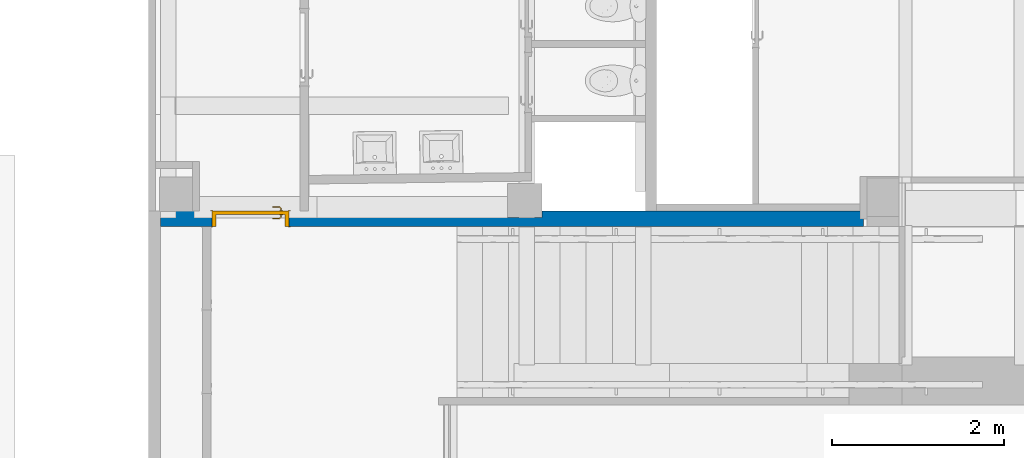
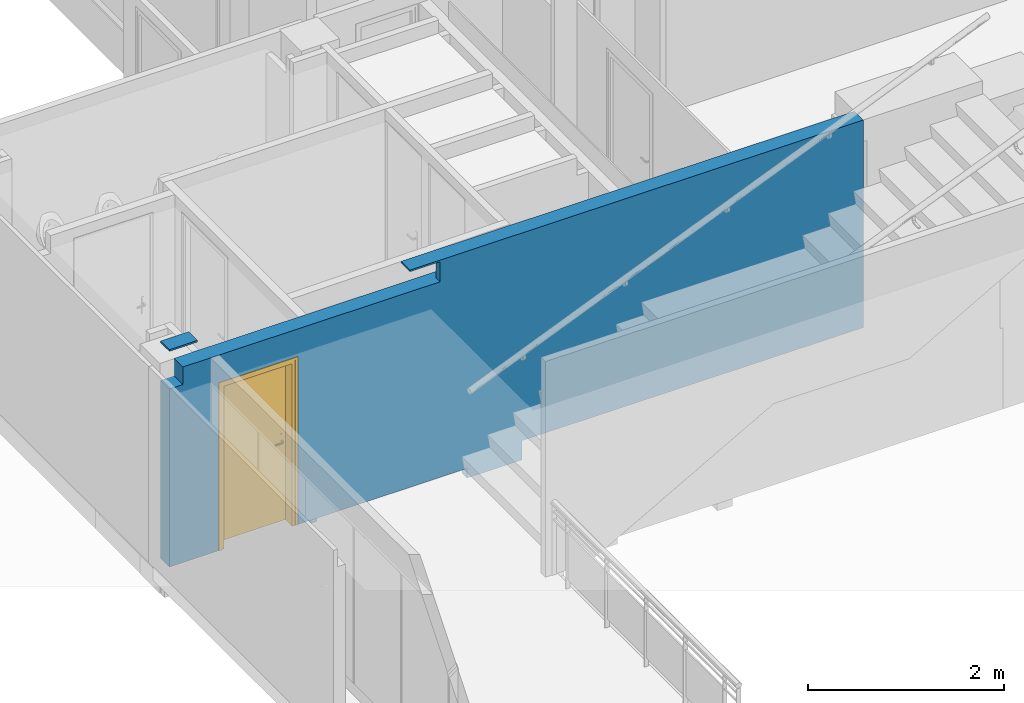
# One storey, part 12 of 32: 1 door, 1 wall, 1 opening.
"""IFC4 building model written with IfcOpenShell, lengths in metres."""

from ifc_helpers import new_model, entity, si_unit, converted_unit, derived_unit, direction, frame, origin, place, context, subcontext, project, spatial, indexed_curve, outline, extrude, polygons, source, transform, mapped, material, material_list, layer, layer_set, constituent, constituent_set, type_object, type_shapes, element, fill, save


model = new_model("IFC4")

# Units and contexts
model_context = context("Model", 3, precision=1e-05, world=origin(), true_north=direction((6.12303176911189e-17, 1.0)))
body_context = subcontext(model_context, "Body", "Model", "MODEL_VIEW")
ifc_project = project(units=[si_unit("LENGTHUNIT", "METRE"), si_unit("AREAUNIT", "SQUARE_METRE"), si_unit("VOLUMEUNIT", "CUBIC_METRE"), converted_unit("PLANEANGLEUNIT", "DEGREE", entity("IfcRatioMeasure", 0.0174532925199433), si_unit("PLANEANGLEUNIT", "RADIAN"), dimensions=[0, 0, 0, 0, 0, 0, 0]), si_unit("MASSUNIT", "GRAM", prefix="KILO"), derived_unit("MASSDENSITYUNIT", [(si_unit("MASSUNIT", "GRAM", prefix="KILO"), 1), (si_unit("LENGTHUNIT", "METRE"), -3)]), derived_unit("MOMENTOFINERTIAUNIT", [(si_unit("LENGTHUNIT", "METRE"), 4)]), si_unit("TIMEUNIT", "SECOND"), si_unit("FREQUENCYUNIT", "HERTZ"), si_unit("THERMODYNAMICTEMPERATUREUNIT", "DEGREE_CELSIUS"), derived_unit("THERMALTRANSMITTANCEUNIT", [(si_unit("MASSUNIT", "GRAM", prefix="KILO"), 1), (si_unit("THERMODYNAMICTEMPERATUREUNIT", "KELVIN"), -1), (si_unit("TIMEUNIT", "SECOND"), -3)]), derived_unit("VOLUMETRICFLOWRATEUNIT", [(si_unit("LENGTHUNIT", "METRE"), 3), (si_unit("TIMEUNIT", "SECOND"), -1)]), si_unit("ELECTRICCURRENTUNIT", "AMPERE"), si_unit("ELECTRICVOLTAGEUNIT", "VOLT"), si_unit("POWERUNIT", "WATT"), si_unit("FORCEUNIT", "NEWTON", prefix="KILO"), si_unit("ILLUMINANCEUNIT", "LUX"), si_unit("LUMINOUSFLUXUNIT", "LUMEN"), si_unit("LUMINOUSINTENSITYUNIT", "CANDELA"), derived_unit("USERDEFINED", [(si_unit("MASSUNIT", "GRAM", prefix="KILO"), -1), (si_unit("LENGTHUNIT", "METRE"), -2), (si_unit("TIMEUNIT", "SECOND"), 3), (si_unit("LUMINOUSFLUXUNIT", "LUMEN"), 1)]), derived_unit("LINEARVELOCITYUNIT", [(si_unit("LENGTHUNIT", "METRE"), 1), (si_unit("TIMEUNIT", "SECOND"), -1)]), si_unit("PRESSUREUNIT", "PASCAL"), derived_unit("USERDEFINED", [(si_unit("LENGTHUNIT", "METRE"), -2), (si_unit("MASSUNIT", "GRAM", prefix="KILO"), 1), (si_unit("TIMEUNIT", "SECOND"), -2)]), derived_unit("LINEARFORCEUNIT", [(si_unit("MASSUNIT", "GRAM", prefix="KILO"), 1), (si_unit("LENGTHUNIT", "METRE"), 1), (si_unit("TIMEUNIT", "SECOND"), -2), (si_unit("LENGTHUNIT", "METRE"), -1)]), derived_unit("PLANARFORCEUNIT", [(si_unit("MASSUNIT", "GRAM", prefix="KILO"), 1), (si_unit("LENGTHUNIT", "METRE"), 1), (si_unit("TIMEUNIT", "SECOND"), -2), (si_unit("LENGTHUNIT", "METRE"), -2)])], contexts=[model_context])

# Site, building, storey
site_placement = place(None, origin())
site = spatial("IfcSite", under=ifc_project, at=site_placement, Name="Default", CompositionType="ELEMENT")
building_placement = place(site_placement, origin())
building = spatial("IfcBuilding", under=site, at=building_placement, Name="HOTEL CONSULAIRE BOULOGNE SUR MER", CompositionType="ELEMENT")
storey_placement = place(building_placement, frame((0.0, 0.0, -2.70343668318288)))
storey = spatial("IfcBuildingStorey", under=building, at=storey_placement, Name="SS1", CompositionType="ELEMENT", Elevation=-2.70343668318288)

# Wall, opening, door
ifc_material_1 = material(Name="Mur par défaut", Category="Divers")
ifc_layer = layer(ifc_material_1, 0.18, Name="Mur par défaut", Category="Divers")
ifc_layer_set = layer_set([ifc_layer], Name="Mur de base:Générique - Int.180")
wall_type = type_object("IfcWallType", Name="Mur de base:Générique - Int.180", PredefinedType="NOTDEFINED", material=ifc_layer_set)
wall_placement = place(storey_placement, frame((-5.46198856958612, -20.0049143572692, -0.120000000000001)))
wall = element("IfcWall", 1, at=wall_placement, inside=storey, type_object=wall_type, material=ifc_layer_set, Name="Mur de base:Générique - Int.180", ObjectType="Mur de base:Générique - Int.180", PredefinedType="NOTDEFINED", context=body_context, shape_type="Tessellation", body=[
    polygons([(-9.77858066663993e-16, 0.0900000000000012, 2.80343668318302), (-9.77858066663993e-16, 0.0900000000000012, 2.82343668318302), (0.332215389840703, 0.0900000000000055, 2.82343668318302), (0.332215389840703, 0.0900000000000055, 2.80343668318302), (1.38859521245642e-16, -0.0899999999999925, 2.80343668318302), (0.332215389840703, -0.0899999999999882, 2.80343668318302), (1.38859521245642e-16, -0.0899999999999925, 2.82343668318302), (0.332215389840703, -0.0899999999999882, 2.82343668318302)], [[[3, 4, 1, 2]], [[5, 1, 4, 6]], [[7, 8, 3, 2]], [[7, 5, 6, 8]], [[1, 5, 7, 2]], [[3, 8, 6, 4]]], closed=True),
    polygons([(3.18763698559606, -0.0899999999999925, 2.80343668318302), (3.18763698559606, -0.0899999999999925, 2.55343668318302), (3.07849177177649, -0.0899999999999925, 2.55343668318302), (0.585070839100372, -0.0899999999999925, 2.55343668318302), (0.485070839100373, -0.0899999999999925, 2.55343668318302), (0.157480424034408, -0.0899999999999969, 2.55343668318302), (0.157480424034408, -0.0899999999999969, 2.33343668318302), (1.38859521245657e-16, -0.0899999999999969, 2.33343668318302), (1.38859521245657e-16, -0.0899999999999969, 0.120000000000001), (0.485070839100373, -0.0899999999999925, 0.120000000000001), (0.585070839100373, -0.0899999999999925, 0.120000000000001), (0.595070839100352, -0.0899999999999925, 0.120000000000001), (0.595070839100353, -0.0899999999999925, 2.195), (1.49507083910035, -0.0899999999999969, 2.195), (1.49507083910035, -0.0899999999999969, 0.120000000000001), (3.50106145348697, -0.0899999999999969, 0.120000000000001), (3.50106145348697, -0.0899999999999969, 0.0), (4.01482963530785, -0.0899999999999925, 0.0), (4.15229748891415, -0.0899999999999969, 0.0), (4.15229748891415, -0.0899999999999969, 0.238999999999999), (8.16816534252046, -0.0899999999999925, 0.238999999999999), (8.16816534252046, -0.0899999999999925, 2.55343668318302), (8.16816534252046, -0.0899999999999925, 2.82343668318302), (3.22849177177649, -0.0899999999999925, 2.82343668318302), (2.8325319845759, -0.0899999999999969, 2.82343668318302), (2.8325319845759, -0.0899999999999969, 2.80343668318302), (0.595070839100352, 0.0900000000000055, 2.195), (0.595070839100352, 0.0900000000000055, 0.120000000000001), (0.453763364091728, 0.0900000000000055, 0.120000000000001), (0.373763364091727, 0.0900000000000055, 0.120000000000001), (-9.77858066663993e-16, 0.0900000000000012, 0.120000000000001), (-9.77858066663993e-16, 0.0900000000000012, 2.33343668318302), (0.157480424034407, 0.0900000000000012, 2.33343668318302), (0.157480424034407, 0.0900000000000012, 2.55343668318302), (0.373763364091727, 0.0900000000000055, 2.55343668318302), (0.453763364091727, 0.0900000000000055, 2.55343668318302), (1.62028922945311, 0.0900000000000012, 2.55343668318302), (1.72028922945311, 0.0900000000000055, 2.55343668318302), (4.03316534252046, 0.0900000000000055, 2.55343668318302), (4.03316534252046, 0.0900000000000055, 0.335000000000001), (4.03316534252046, 0.0900000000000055, 0.315000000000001), (4.03316534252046, 0.0900000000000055, 0.18), (1.79232700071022, 0.0900000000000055, 0.18), (1.79232700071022, 0.0900000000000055, 0.165000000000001), (1.79232700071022, 0.0900000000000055, 0.0), (1.725, 0.0900000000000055, 0.0), (1.725, 0.0900000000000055, 0.120000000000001), (1.49507083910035, 0.0900000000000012, 0.120000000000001), (1.49507083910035, 0.0900000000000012, 2.195), (6.87976137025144, 0.0900000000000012, 2.55343668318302), (6.87976137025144, 0.0, 2.55343668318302), (8.16816534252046, 0.0, 2.55343668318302), (8.16816534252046, 0.0900000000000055, 2.55343668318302), (4.30964408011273, 0.0, 2.80343668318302), (3.18763698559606, 4.33146851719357e-15, 2.80343668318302), (2.8325319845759, 0.0900000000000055, 2.80343668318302), (4.30964408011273, 0.0900000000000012, 2.80343668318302), (4.15229748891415, 0.0120045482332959, 0.0), (3.50106145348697, 0.00668303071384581, 0.0), (4.01482963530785, 0.00668303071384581, 0.0), (4.03302700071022, 0.00668303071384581, 0.0), (4.03316534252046, 0.0120045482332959, 0.0), (1.725, 0.00668303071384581, 0.120000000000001), (1.79232700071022, 0.00668303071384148, 0.120000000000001), (3.50106145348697, 0.00668303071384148, 0.120000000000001), (8.16816534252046, 0.0900000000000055, 0.238999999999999), (4.43316534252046, 0.0900000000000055, 0.238999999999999), (4.43316534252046, 0.0900000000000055, 2.55343668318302), (4.30964408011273, 0.0900000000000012, 2.55343668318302), (2.8325319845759, 0.0900000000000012, 2.82343668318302), (8.16816534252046, 0.0900000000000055, 2.82343668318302), (8.16816534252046, 0.0900000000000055, 2.80343668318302), (6.87976137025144, 0.0900000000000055, 2.80343668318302), (8.16816534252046, 0.0900000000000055, 0.414000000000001), (3.18763698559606, 4.33146851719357e-15, 2.55343668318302), (4.30964408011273, 0.0, 2.55343668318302), (4.30964408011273, 0.0120045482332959, 2.55343668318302), (4.03316534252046, 0.0120045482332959, 2.55343668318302), (0.157480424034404, 0.0826830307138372, 2.55343668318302), (8.16816534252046, -4.33146851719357e-15, 2.80343668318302), (6.87976137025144, 0.0, 2.80343668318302), (4.43316534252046, 0.0120045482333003, 2.55343668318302), (4.43316534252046, 0.0120045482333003, 0.238999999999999), (4.43316534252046, 0.0120045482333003, 0.315000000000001), (4.03316534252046, 0.0120045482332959, 0.18), (4.03316534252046, 0.0120045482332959, 0.315000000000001), (4.15229748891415, 0.0120045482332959, 0.238999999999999), (1.725, 0.00668303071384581, 0.0), (1.79232700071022, 0.00668303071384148, 0.0), (1.79232700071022, 0.00668303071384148, 0.18), (4.03302700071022, 0.00668303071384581, 0.18), (0.157480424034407, 0.0826830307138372, 2.33343668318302)], [[[10, 11, 12, 13, 14, 15, 16, 17, 18, 19, 20, 21, 22, 23, 24, 25, 26, 1, 2, 3, 4, 5, 6, 7, 8, 9]], [[63, 88, 89, 64]], [[45, 46, 47, 48, 49, 27, 28, 29, 30, 31, 32, 33, 34, 35, 36, 37, 38, 39, 40, 41, 42, 43, 44]], [[50, 53, 74, 66, 67, 68, 69, 57, 56, 70, 71, 72, 73]], [[54, 76, 75, 55]], [[77, 82, 84, 83, 87, 58, 62, 85, 86, 78]], [[60, 59, 65, 64, 90, 91, 61]], [[80, 52, 51, 81]], [[53, 50, 51, 52]], [[35, 34, 79, 6, 5, 4, 3, 2, 75, 76, 77, 78, 39, 38, 37, 36]], [[24, 23, 71, 70, 25]], [[92, 33, 32, 8, 7]], [[54, 55, 1, 26, 56, 57]], [[17, 59, 60, 61, 62, 58, 19, 18]], [[63, 64, 65, 16, 15, 48, 47]], [[81, 73, 72, 80]], [[14, 13, 27, 49]], [[89, 88, 46, 45]], [[83, 67, 66, 21, 20, 87]], [[31, 30, 29, 28, 12, 11, 10, 9]], [[43, 42, 85, 91, 90]], [[77, 69, 68, 82]], [[31, 9, 8, 32]], [[55, 75, 2, 1]], [[15, 14, 49, 48]], [[84, 82, 68, 67, 83]], [[63, 47, 46, 88]], [[16, 65, 59, 17]], [[92, 7, 6, 79, 34, 33]], [[54, 57, 69, 77, 76]], [[25, 70, 56, 26]], [[12, 28, 27, 13]], [[40, 39, 78, 86, 85, 42, 41]], [[20, 19, 58, 87]], [[64, 89, 45, 44, 43, 90]], [[22, 21, 66, 74, 53, 52, 80, 72, 71, 23]], [[73, 81, 51, 50]], [[61, 91, 85, 62]]], closed=True),
])
opening_placement = place(wall_placement, frame((0.595070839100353, -0.089999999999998, 0.120000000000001)))
opening = element("IfcOpeningElement", 2, at=opening_placement, cuts=wall, Name="Int. Simple:PP (0.83m x 2.04m):1", ObjectType="Opening", PredefinedType="OPENING", context=body_context, shape_type="SweptSolid", body=[
    extrude(outline(indexed_curve([(0.0, -1.9104577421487e-29), (2.075, -1.9104577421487e-29), (2.075, 0.9), (0.0, 0.9), (0.0, -1.9104577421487e-29)], self_intersect=False)), frame((0.0, 0.0, 0.0), z_axis=(0.0, 1.0, 0.0), x_axis=(0.0, 0.0, 1.0)), (0.0, 0.0, 1.0), 0.18),
])
ifc_material_2 = material(Name="Finition Peinture - Blanc satiné", Category="Peinture")
ifc_constituent_1 = constituent(ifc_material_2, Name="Finition Peinture - Blanc satiné", Category="Matériaux")
ifc_material_3 = material(Name="Bois - Panneau de porte", Category="Bois")
ifc_constituent_2 = constituent(ifc_material_3, Name="Bois - Panneau de porte", Category="Matériaux")
ifc_material_4 = material(Name="Bois - Cadre de porte", Category="Bois")
ifc_constituent_3 = constituent(ifc_material_4, Name="Bois - Cadre de porte", Category="Matériaux")
ifc_constituent_set = constituent_set(constituents=[ifc_constituent_1, ifc_constituent_2, ifc_constituent_3], Name="MaterialConstituentSet")
ifc_material_list = material_list([ifc_material_3, ifc_material_4, ifc_material_4, ifc_material_2])
door_type = type_object("IfcDoorType", Name="Int. Simple:PP (0.83m x 2.04m)", OperationType="NOTDEFINED", PredefinedType="DOOR", material=ifc_material_list)
shared_shape = source(origin(), body_context, "Body", "Tessellation", [
    polygons([(0.0750000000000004, -0.00500000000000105, 0.870000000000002), (0.0846472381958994, -0.00500000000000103, 0.866003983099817), (0.0950000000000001, -0.00500000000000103, 0.86464101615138), (0.105352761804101, -0.00500000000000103, 0.866003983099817), (0.115, -0.00500000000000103, 0.870000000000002), (0.114999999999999, -0.00500000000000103, 1.08), (0.1053527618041, -0.00500000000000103, 1.08399601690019), (0.094999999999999, -0.00500000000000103, 1.08535898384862), (0.0846472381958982, -0.00500000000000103, 1.08399601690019), (0.0749999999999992, -0.00500000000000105, 1.08), (0.0749999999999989, -1.06594733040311e-15, 0.870000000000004), (0.0749999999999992, -1.06594733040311e-15, 1.08), (0.0846472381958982, -1.04902753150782e-15, 1.08399601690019), (0.094999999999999, -1.04902753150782e-15, 1.08535898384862), (0.1053527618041, -1.04902753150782e-15, 1.08399601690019), (0.114999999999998, -1.04902753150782e-15, 1.08), (0.115, -1.04902753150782e-15, 0.870000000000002), (0.105352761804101, -1.04902753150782e-15, 0.866003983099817), (0.0950000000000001, -1.04902753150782e-15, 0.86464101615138), (0.0846472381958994, -1.04902753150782e-15, 0.866003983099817)], [[[4, 5, 6, 7, 8, 9, 10, 1, 2, 3]], [[15, 16, 17, 18, 19, 20, 11, 12, 13, 14]], [[11, 20, 2, 1]], [[2, 20, 19, 3]], [[19, 18, 4, 3]], [[18, 17, 5, 4]], [[6, 5, 17, 16]], [[16, 15, 7, 6]], [[7, 15, 14, 8]], [[14, 13, 9, 8]], [[13, 12, 10, 9]], [[1, 10, 12, 11]]], closed=True),
    polygons([(0.114999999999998, 0.0399999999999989, 1.08), (0.105352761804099, 0.0399999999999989, 1.08399601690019), (0.0949999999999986, 0.0399999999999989, 1.08535898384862), (0.084647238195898, 0.0399999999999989, 1.08399601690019), (0.0749999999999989, 0.0399999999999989, 1.08), (0.0750000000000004, 0.0399999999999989, 0.870000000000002), (0.0846472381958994, 0.0399999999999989, 0.866003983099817), (0.0950000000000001, 0.0399999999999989, 0.86464101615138), (0.105352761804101, 0.0399999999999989, 0.866003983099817), (0.115, 0.0399999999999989, 0.870000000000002), (0.114999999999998, 0.044999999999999, 1.08), (0.115, 0.044999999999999, 0.870000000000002), (0.105352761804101, 0.0449999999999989, 0.866003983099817), (0.0950000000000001, 0.0449999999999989, 0.86464101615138), (0.0846472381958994, 0.0449999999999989, 0.866003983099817), (0.0749999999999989, 0.0449999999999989, 0.870000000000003), (0.0749999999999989, 0.0449999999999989, 1.08), (0.084647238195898, 0.0449999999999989, 1.08399601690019), (0.0949999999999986, 0.0449999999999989, 1.08535898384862), (0.105352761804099, 0.0449999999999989, 1.08399601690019)], [[[9, 10, 1, 2, 3, 4, 5, 6, 7, 8]], [[20, 11, 12, 13, 14, 15, 16, 17, 18, 19]], [[11, 20, 2, 1]], [[2, 20, 19, 3]], [[19, 18, 4, 3]], [[18, 17, 5, 4]], [[6, 5, 17, 16]], [[16, 15, 7, 6]], [[7, 15, 14, 8]], [[14, 13, 9, 8]], [[13, 12, 10, 9]], [[1, 10, 12, 11]]], closed=True),
    polygons([(0.0889999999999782, -0.00500000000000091, 1.007), (0.0929747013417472, -0.00500000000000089, 1.00778044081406), (0.0970252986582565, -0.00500000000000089, 1.00778044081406), (0.101000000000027, -0.00500000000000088, 1.00699999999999), (0.101000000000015, -0.00500000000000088, 0.993000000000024), (0.0970252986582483, -0.00500000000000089, 0.992219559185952), (0.0929747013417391, -0.00500000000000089, 0.99221955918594), (0.0889999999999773, -0.00500000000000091, 0.992999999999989), (0.0889999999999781, -0.0326509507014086, 1.007), (0.092974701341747, -0.0310045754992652, 1.00778044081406), (0.0970252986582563, -0.0293267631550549, 1.00778044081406), (0.101000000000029, -0.0276803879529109, 1.007), (0.101000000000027, -0.0276803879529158, 0.993000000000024), (0.0970252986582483, -0.0293267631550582, 0.992219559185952), (0.0929747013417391, -0.0310045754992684, 0.99221955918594), (0.0889999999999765, -0.0326509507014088, 0.992999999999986), (0.107377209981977, -0.051028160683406, 1.007), (0.10902358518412, -0.0470534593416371, 1.00778044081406), (0.110701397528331, -0.0430028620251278, 1.00778044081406), (0.112347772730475, -0.0390281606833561, 1.007), (0.112347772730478, -0.0390281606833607, 0.993000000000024), (0.110701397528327, -0.0430028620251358, 0.992219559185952), (0.109023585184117, -0.0470534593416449, 0.99221955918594), (0.107377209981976, -0.0510281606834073, 0.992999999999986), (0.195018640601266, -0.0510281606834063, 1.00699999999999), (0.195018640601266, -0.051028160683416, 0.992999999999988), (0.195018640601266, -0.0470534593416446, 0.99221955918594), (0.195018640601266, -0.0430028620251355, 0.992219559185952), (0.195018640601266, -0.0390281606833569, 0.993000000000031), (0.195018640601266, -0.0390281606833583, 1.007), (0.195018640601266, -0.0430028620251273, 1.00778044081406), (0.195018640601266, -0.0470534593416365, 1.00778044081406), (0.147307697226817, -0.0510281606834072, 1.007), (0.152860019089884, -0.045028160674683, 1.0078786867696), (0.15368320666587, -0.039028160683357, 1.007), (0.147307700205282, -0.0510281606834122, 0.992999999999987), (0.152860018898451, -0.0450281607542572, 0.992121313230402), (0.153683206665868, -0.0390281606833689, 0.993000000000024)], [[[2, 3, 4, 5, 6, 7, 8, 1]], [[21, 20, 35, 30, 29, 38]], [[9, 10, 2, 1]], [[10, 18, 19, 11, 3, 2]], [[11, 12, 4, 3]], [[5, 4, 12, 13]], [[26, 27, 28, 29, 30, 31, 32, 25]], [[13, 14, 6, 5]], [[14, 22, 23, 15, 7, 6]], [[15, 16, 8, 7]], [[1, 8, 16, 9]], [[17, 18, 10, 9]], [[19, 20, 12, 11]], [[13, 12, 20, 21]], [[21, 22, 14, 13]], [[23, 24, 16, 15]], [[9, 16, 24, 17]], [[33, 32, 34]], [[25, 32, 33]], [[18, 17, 33]], [[34, 35, 19]], [[20, 19, 35]], [[35, 31, 30]], [[32, 31, 34]], [[31, 35, 34]], [[18, 33, 34]], [[18, 34, 19]], [[38, 28, 37]], [[36, 37, 27]], [[21, 38, 22]], [[38, 29, 28]], [[26, 36, 27]], [[24, 23, 36]], [[36, 23, 37]], [[23, 22, 37]], [[22, 38, 37]], [[27, 37, 28]], [[17, 24, 36, 26, 25, 33]]], closed=True),
    polygons([(0.10100000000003, 0.0449999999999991, 0.993000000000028), (0.101000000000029, 0.0449999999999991, 1.007), (0.0970252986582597, 0.0449999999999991, 1.00778044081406), (0.0929747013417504, 0.0449999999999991, 1.00778044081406), (0.0889999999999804, 0.0449999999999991, 1.007), (0.0889999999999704, 0.0449999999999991, 0.992999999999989), (0.0929747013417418, 0.0449999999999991, 0.99221955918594), (0.0970252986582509, 0.0449999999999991, 0.992219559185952), (0.10100000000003, 0.067485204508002, 0.993000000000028), (0.10100000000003, 0.0674852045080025, 1.007), (0.0970252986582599, 0.0691315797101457, 1.00778044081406), (0.0929747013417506, 0.070809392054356, 1.00778044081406), (0.0889999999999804, 0.0724557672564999, 1.007), (0.0889999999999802, 0.0724557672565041, 0.992999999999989), (0.0929747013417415, 0.0708093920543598, 0.99221955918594), (0.0970252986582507, 0.0691315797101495, 0.992219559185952), (0.112485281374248, 0.0789704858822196, 0.993000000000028), (0.112485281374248, 0.0789704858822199, 1.007), (0.110838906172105, 0.0829451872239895, 1.00778044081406), (0.109161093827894, 0.0869957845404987, 1.00778044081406), (0.107514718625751, 0.090970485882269, 1.007), (0.107514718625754, 0.090970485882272, 0.992999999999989), (0.109161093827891, 0.0869957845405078, 0.99221955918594), (0.110838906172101, 0.0829451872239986, 0.992219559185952), (0.195045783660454, 0.0789704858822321, 0.993000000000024), (0.195045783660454, 0.0829451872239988, 0.992219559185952), (0.195045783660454, 0.086995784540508, 0.99221955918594), (0.195045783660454, 0.0909704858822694, 0.992999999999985), (0.195045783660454, 0.0909704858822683, 1.007), (0.195045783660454, 0.0869957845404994, 1.00778044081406), (0.195045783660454, 0.0829451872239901, 1.00778044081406), (0.195045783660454, 0.0789704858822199, 1.007), (0.147445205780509, 0.0909704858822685, 1.007), (0.152942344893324, 0.0849704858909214, 1.0078786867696), (0.153765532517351, 0.0789704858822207, 1.007), (0.147445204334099, 0.0909704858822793, 0.992999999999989), (0.152942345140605, 0.0849704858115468, 0.992121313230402), (0.153765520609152, 0.0789704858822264, 0.993000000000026)], [[[4, 5, 6, 7, 8, 1, 2, 3]], [[18, 17, 38, 25, 32, 35]], [[2, 1, 9, 10]], [[25, 26, 27, 28, 29, 30, 31, 32]], [[10, 11, 3, 2]], [[11, 19, 20, 12, 4, 3]], [[12, 13, 5, 4]], [[6, 5, 13, 14]], [[14, 15, 7, 6]], [[15, 23, 24, 16, 8, 7]], [[16, 9, 1, 8]], [[10, 9, 17, 18]], [[18, 19, 11, 10]], [[20, 21, 13, 12]], [[14, 13, 21, 22]], [[22, 23, 15, 14]], [[24, 17, 9, 16]], [[35, 31, 34]], [[33, 34, 30]], [[18, 35, 19]], [[35, 32, 31]], [[29, 33, 30]], [[21, 20, 33]], [[33, 20, 34]], [[20, 19, 34]], [[19, 35, 34]], [[30, 34, 31]], [[21, 33, 29, 28, 36, 22]], [[36, 27, 37]], [[28, 27, 36]], [[23, 22, 36]], [[37, 38, 24]], [[17, 24, 38]], [[38, 26, 25]], [[27, 26, 37]], [[26, 38, 37]], [[23, 36, 37]], [[23, 37, 24]]], closed=True),
    polygons([(0.034999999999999, 0.04, 2.04), (0.865, 0.04, 2.04), (0.864999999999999, 0.04, 0.0), (0.034999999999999, 0.04, 0.0), (0.034999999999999, 5.07593966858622e-17, 2.04), (0.034999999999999, 5.07593966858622e-17, 0.0), (0.864999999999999, 5.07593966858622e-17, 0.0), (0.865, 5.07593966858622e-17, 2.04)], [[[4, 1, 2, 3]], [[7, 8, 5, 6]], [[2, 1, 5, 8]], [[3, 2, 8, 7]], [[4, 3, 7, 6]], [[1, 4, 6, 5]]], closed=True),
    polygons([(-1.54308565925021e-14, 1.69197988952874e-17, 0.0), (-1.54308565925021e-14, 0.180000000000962, 0.0), (0.0499999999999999, 0.180000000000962, 0.0), (0.0499999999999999, 0.0400000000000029, 0.0), (0.0349999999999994, 0.0400000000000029, 0.0), (0.0349999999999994, 1.69197988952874e-17, 0.0), (-1.53631773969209e-14, 1.69197988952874e-17, 2.07500000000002), (-1.53631773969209e-14, 0.180000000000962, 2.07500000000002), (0.900000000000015, 0.180000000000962, 2.07500000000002), (0.900000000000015, 0.180000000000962, 9.23443718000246e-25), (0.85, 0.180000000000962, 6.02669015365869e-24), (0.85, 0.180000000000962, 2.025), (0.05, 0.180000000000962, 2.025), (0.05, 0.0400000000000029, 2.025), (0.85, 0.0400000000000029, 2.025), (0.85, 0.0400000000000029, 1.99209609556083e-25), (0.865, 0.0400000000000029, 1.51399294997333e-24), (0.865000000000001, 0.0400000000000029, 2.04), (0.0349999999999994, 0.0400000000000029, 2.04), (0.0349999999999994, 1.69197988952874e-17, 2.04), (0.865, 1.69197988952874e-17, 2.04), (0.865, 1.69197988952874e-17, 3.40121094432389e-24), (0.900000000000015, 1.69197988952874e-17, 1.81925185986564e-24), (0.900000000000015, 1.69197988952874e-17, 2.07500000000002)], [[[5, 6, 1, 2, 3, 4]], [[11, 10, 23, 22, 17, 16]], [[14, 13, 12, 15]], [[20, 19, 18, 21]], [[2, 1, 7, 8]], [[15, 12, 11, 16]], [[21, 18, 17, 22]], [[3, 2, 8, 9, 10, 11, 12, 13]], [[4, 3, 13, 14]], [[6, 5, 19, 20]], [[9, 24, 23, 10]], [[16, 17, 18, 19, 5, 4, 14, 15]], [[22, 23, 24, 7, 1, 6, 20, 21]], [[8, 7, 24, 9]]], closed=True),
    polygons([(0.0149999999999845, 0.180000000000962, 1.35358391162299e-16), (-0.0150000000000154, 0.180000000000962, 1.35358391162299e-16), (-0.0150000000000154, 0.185000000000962, 1.35358391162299e-16), (0.0149999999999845, 0.185000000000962, 1.35358391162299e-16), (0.0149999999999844, 0.180000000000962, 2.06000000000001), (0.884999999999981, 0.180000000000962, 2.06000000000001), (0.88499999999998, 0.180000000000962, 5.09144897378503e-24), (0.91499999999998, 0.180000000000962, -5.44393448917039e-24), (0.91499999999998, 0.180000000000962, 2.09000000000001), (-0.0150000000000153, 0.180000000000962, 2.09000000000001), (-0.0150000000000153, 0.185000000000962, 2.09000000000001), (0.91499999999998, 0.185000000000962, 2.09000000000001), (0.91499999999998, 0.185000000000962, 5.03766794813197e-24), (0.88499999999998, 0.185000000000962, -1.89153776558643e-24), (0.88499999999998, 0.185000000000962, 2.06000000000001), (0.0149999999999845, 0.185000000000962, 2.06000000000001)], [[[2, 3, 4, 1]], [[14, 13, 8, 7]], [[5, 16, 15, 6]], [[7, 8, 9, 10, 2, 1, 5, 6]], [[3, 2, 10, 11]], [[6, 15, 14, 7]], [[4, 3, 11, 12, 13, 14, 15, 16]], [[1, 4, 16, 5]], [[12, 9, 8, 13]], [[11, 10, 9, 12]]], closed=True),
    polygons([(0.0149999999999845, -0.005, 1.35358391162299e-16), (-0.0150000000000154, -0.005, 1.35358391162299e-16), (-0.0150000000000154, 1.69197988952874e-17, 1.35358391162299e-16), (0.0149999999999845, 1.69197988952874e-17, 1.35358391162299e-16), (0.88499999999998, -0.005, -1.35358391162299e-16), (0.88499999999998, 1.69197988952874e-17, -1.35358391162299e-16), (0.91499999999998, 1.69197988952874e-17, -1.35358391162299e-16), (0.91499999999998, -0.005, -1.35358391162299e-16), (0.0149999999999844, -0.005, 2.06000000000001), (0.884999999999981, -0.005, 2.06000000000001), (0.91499999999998, -0.005, 2.09000000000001), (-0.0150000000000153, -0.005, 2.09000000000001), (-0.0150000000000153, 1.69197988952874e-17, 2.09000000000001), (0.91499999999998, 1.69197988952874e-17, 2.09000000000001), (0.88499999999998, 1.69197988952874e-17, 2.06000000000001), (0.0149999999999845, 1.69197988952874e-17, 2.06000000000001)], [[[1, 2, 3, 4]], [[6, 7, 8, 5]], [[9, 16, 15, 10]], [[5, 8, 11, 12, 2, 1, 9, 10]], [[3, 2, 12, 13]], [[10, 15, 6, 5]], [[4, 3, 13, 14, 7, 6, 15, 16]], [[1, 4, 16, 9]], [[14, 11, 8, 7]], [[13, 12, 11, 14]]], closed=True),
])
type_shapes(door_type, [shared_shape])
door_placement = place(opening_placement, frame((0.899999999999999, 0.179999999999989, 0.0), z_axis=(0.0, 0.0, 1.0), x_axis=(-1.0, 0.0, 0.0)))
door = element("IfcDoor", 3, at=door_placement, inside=storey, type_object=door_type, material=ifc_constituent_set, Name="Int. Simple:PP (0.83m x 2.04m)", ObjectType="Int. Simple:PP (0.83m x 2.04m)", OperationType="NOTDEFINED", OverallHeight=2.075, OverallWidth=0.9, PredefinedType="DOOR", context=body_context, shape_type="MappedRepresentation", body=[
    mapped(shared_shape, transform((0.0, 0.0, 0.0), scale=1.0)),
])
fill(opening, door)

save(model, "model.ifc")
